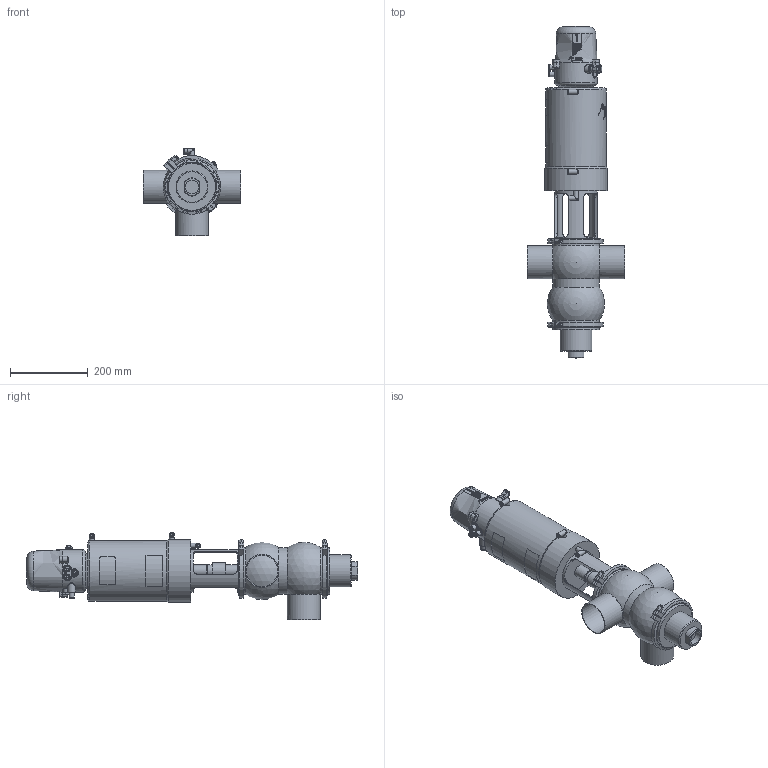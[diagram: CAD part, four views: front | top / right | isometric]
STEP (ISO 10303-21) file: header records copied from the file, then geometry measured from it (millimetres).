
FILE_DESCRIPTION (( 'STEP AP214' ), '1' );
FILE_NAME ('INNOVA P AB-90 W DIN 080 & C-TOP S_10.250.16.0011.STEP', '2024-08-09T12:26:52', ( '' ), ( '' ), 'SwSTEP 2.0', 'SolidWorks 2023', '' );
FILE_SCHEMA (( 'AUTOMOTIVE_DESIGN' ));
Length unit declared in the file: millimetre
Products named in the file (7): INNOVA P AB-90 W DIN 080 & C-TOP S_10.250.16.0011; 10.426.15.0001_C-TOP S - 3 EV; 10.240.15.0001_DN 080; 10.250.15.0001_DIN 080; 10.250.15.0002_Type P T2; 10.251.15.0003_DIN 080; 10.250.15.0003_DN 080
Assembly tree (7 placements, depth 2):
  INNOVA P AB-90 W DIN 080 & C-TOP S_10.250.16.0011
    10.250.15.0001_DIN 080
    10.250.15.0002_Type P T2
    10.426.15.0001_C-TOP S - 3 EV
    10.251.15.0003_DIN 080
    10.240.15.0001_DN 080  x2
    10.250.15.0003_DN 080
Bounding box: 250 x 851.5 x 224 mm (x, y, z)
Volume: 10572251.6 mm3; surface area: 666766.9 mm2
Topology: 7 solids, 7 shells, 1207 faces, 2919 edges, 1941 vertices
Faces by surface type: plane 413, cylinder 385, cone 204, bspline 162, torus 33, sphere 10
Full cylindrical faces by diameter (mm): 0.371 x17, 0.512 x16, 0.658 x16, 0.795 x16, 0.94 x15, 1.098 x15, 1.241 x13, 1.382 x13, 1.523 x11, 1.669 x10, 2.201 x1, 4.2 x2, 5 x1, 5.5 x2, 6 x4, 6.15 x3, 8 x5, 10 x1, 10.5 x3, 11 x4, 12.5 x9, 13 x6, 13.5 x2, 17 x3, 20 x2, 22 x2, 30.5 x2, 32 x1, 35 x1, 41 x1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
Entity records: 60172 total; most frequent: CARTESIAN_POINT 28699, ORIENTED_EDGE 4626, DIRECTION 3773, EDGE_CURVE 2313, VERTEX_POINT 1649, EDGE_LOOP 1628, AXIS2_PLACEMENT_3D 1556, FACE_OUTER_BOUND 1376
